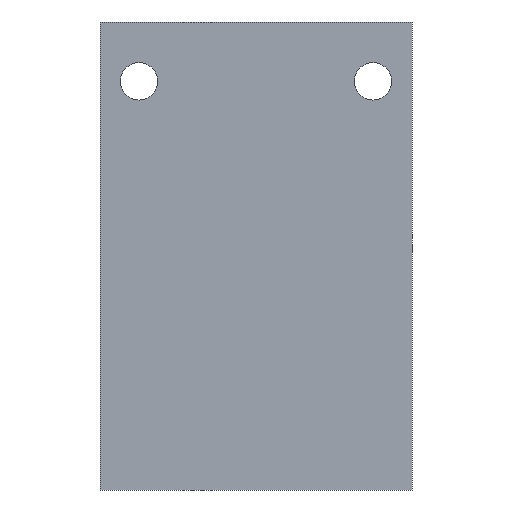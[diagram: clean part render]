
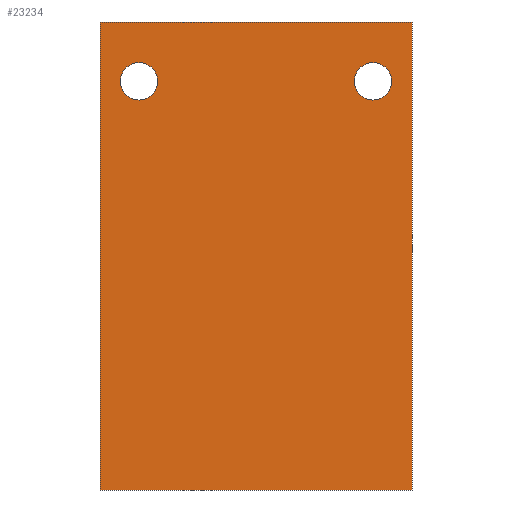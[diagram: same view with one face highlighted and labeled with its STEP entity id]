
A CAD part, front view. The second image highlights one B-rep face of the part: STEP entity #23234.
In plain terms, the highlighted planar face has unit normal (0, -1, 0).
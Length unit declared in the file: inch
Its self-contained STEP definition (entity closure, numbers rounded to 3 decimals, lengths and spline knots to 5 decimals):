
#471 = CARTESIAN_POINT ( 'NONE',  ( 0.375, -0.03125, 0.56 ) ) ;
#3768 = CIRCLE ( 'NONE', #24763, 0.06 ) ;
#4993 = FACE_OUTER_BOUND ( 'NONE', #55538, .T. ) ;
#5195 = CIRCLE ( 'NONE', #61440, 0.06 ) ;
#5812 = CARTESIAN_POINT ( 'NONE',  ( -0.375, -0.03125, 0.5 ) ) ;
#5893 = DIRECTION ( 'NONE',  ( 0., 0., 1. ) ) ;
#6163 = CARTESIAN_POINT ( 'NONE',  ( -0.375, -0.03125, 0.56 ) ) ;
#9868 = CARTESIAN_POINT ( 'NONE',  ( 0.5, -0.03125, 0.75 ) ) ;
#11279 = LINE ( 'NONE', #52866, #52467 ) ;
#11567 = DIRECTION ( 'NONE',  ( 0., 0., 1. ) ) ;
#12173 = VERTEX_POINT ( 'NONE', #9868 ) ;
#13212 = CARTESIAN_POINT ( 'NONE',  ( 0.375, -0.03125, 0.62 ) ) ;
#13873 = AXIS2_PLACEMENT_3D ( 'NONE', #471, #38088, #5893 ) ;
#14081 = ORIENTED_EDGE ( 'NONE', *, *, #65235, .T. ) ;
#16744 = EDGE_CURVE ( 'NONE', #51047, #39979, #3768, .T. ) ;
#17879 = CARTESIAN_POINT ( 'NONE',  ( -0.5, -0.03125, -0.75 ) ) ;
#18766 = CARTESIAN_POINT ( 'NONE',  ( 0., -0.03125, 0. ) ) ;
#18881 = CARTESIAN_POINT ( 'NONE',  ( -0.5, -0.03125, 0. ) ) ;
#19242 = FACE_BOUND ( 'NONE', #41740, .T. ) ;
#19586 = EDGE_CURVE ( 'NONE', #51341, #24756, #27676, .T. ) ;
#20316 = EDGE_CURVE ( 'NONE', #35443, #40907, #34217, .T. ) ;
#20399 = EDGE_CURVE ( 'NONE', #39979, #51047, #46004, .T. ) ;
#20922 = DIRECTION ( 'NONE',  ( 0., 1., 0. ) ) ;
#22057 = ORIENTED_EDGE ( 'NONE', *, *, #20316, .T. ) ;
#23234 = ADVANCED_FACE ( 'NONE', ( #19242, #33562, #4993 ), #56173, .T. ) ;
#23436 = CARTESIAN_POINT ( 'NONE',  ( 0.375, -0.03125, 0.5 ) ) ;
#24190 = DIRECTION ( 'NONE',  ( 0., 0., -1. ) ) ;
#24191 = ORIENTED_EDGE ( 'NONE', *, *, #60579, .T. ) ;
#24514 = CARTESIAN_POINT ( 'NONE',  ( 0., -0.03125, 0.75 ) ) ;
#24756 = VERTEX_POINT ( 'NONE', #17879 ) ;
#24763 = AXIS2_PLACEMENT_3D ( 'NONE', #31415, #68947, #36829 ) ;
#26022 = AXIS2_PLACEMENT_3D ( 'NONE', #53097, #20922, #58513 ) ;
#26928 = CARTESIAN_POINT ( 'NONE',  ( 0.5, -0.03125, -0.75 ) ) ;
#27138 = DIRECTION ( 'NONE',  ( 1., 0., 0. ) ) ;
#27676 = LINE ( 'NONE', #18881, #56286 ) ;
#29715 = VERTEX_POINT ( 'NONE', #26928 ) ;
#30153 = DIRECTION ( 'NONE',  ( -1., 0., 0. ) ) ;
#30868 = LINE ( 'NONE', #59557, #45246 ) ;
#31415 = CARTESIAN_POINT ( 'NONE',  ( 0.375, -0.03125, 0.56 ) ) ;
#33253 = AXIS2_PLACEMENT_3D ( 'NONE', #18766, #56418, #24190 ) ;
#33562 = FACE_BOUND ( 'NONE', #46425, .T. ) ;
#34217 = CIRCLE ( 'NONE', #26022, 0.06 ) ;
#35293 = LINE ( 'NONE', #24514, #49596 ) ;
#35443 = VERTEX_POINT ( 'NONE', #5812 ) ;
#36829 = DIRECTION ( 'NONE',  ( 0., 0., 1. ) ) ;
#38088 = DIRECTION ( 'NONE',  ( 0., 1., 0. ) ) ;
#39979 = VERTEX_POINT ( 'NONE', #13212 ) ;
#40907 = VERTEX_POINT ( 'NONE', #52994 ) ;
#41355 = EDGE_CURVE ( 'NONE', #12173, #51341, #35293, .T. ) ;
#41740 = EDGE_LOOP ( 'NONE', ( #63292, #61299 ) ) ;
#43796 = DIRECTION ( 'NONE',  ( 0., 1., 0. ) ) ;
#45246 = VECTOR ( 'NONE', #27138, 39.37008 ) ;
#46004 = CIRCLE ( 'NONE', #13873, 0.06 ) ;
#46425 = EDGE_LOOP ( 'NONE', ( #14081, #22057 ) ) ;
#47856 = CARTESIAN_POINT ( 'NONE',  ( -0.5, -0.03125, 0.75 ) ) ;
#49596 = VECTOR ( 'NONE', #30153, 39.37008 ) ;
#50532 = EDGE_CURVE ( 'NONE', #29715, #12173, #11279, .T. ) ;
#51047 = VERTEX_POINT ( 'NONE', #23436 ) ;
#51341 = VERTEX_POINT ( 'NONE', #47856 ) ;
#52467 = VECTOR ( 'NONE', #58286, 39.37008 ) ;
#52866 = CARTESIAN_POINT ( 'NONE',  ( 0.5, -0.03125, 0. ) ) ;
#52994 = CARTESIAN_POINT ( 'NONE',  ( -0.375, -0.03125, 0.62 ) ) ;
#53097 = CARTESIAN_POINT ( 'NONE',  ( -0.375, -0.03125, 0.56 ) ) ;
#55538 = EDGE_LOOP ( 'NONE', ( #69027, #57779, #58256, #24191 ) ) ;
#56173 = PLANE ( 'NONE',  #33253 ) ;
#56286 = VECTOR ( 'NONE', #56512, 39.37008 ) ;
#56418 = DIRECTION ( 'NONE',  ( 0., -1., 0. ) ) ;
#56512 = DIRECTION ( 'NONE',  ( 0., 0., -1. ) ) ;
#57779 = ORIENTED_EDGE ( 'NONE', *, *, #41355, .T. ) ;
#58256 = ORIENTED_EDGE ( 'NONE', *, *, #19586, .T. ) ;
#58286 = DIRECTION ( 'NONE',  ( 0., 0., 1. ) ) ;
#58513 = DIRECTION ( 'NONE',  ( 0., 0., 1. ) ) ;
#59557 = CARTESIAN_POINT ( 'NONE',  ( 0., -0.03125, -0.75 ) ) ;
#60579 = EDGE_CURVE ( 'NONE', #24756, #29715, #30868, .T. ) ;
#61299 = ORIENTED_EDGE ( 'NONE', *, *, #16744, .T. ) ;
#61440 = AXIS2_PLACEMENT_3D ( 'NONE', #6163, #43796, #11567 ) ;
#63292 = ORIENTED_EDGE ( 'NONE', *, *, #20399, .T. ) ;
#65235 = EDGE_CURVE ( 'NONE', #40907, #35443, #5195, .T. ) ;
#68947 = DIRECTION ( 'NONE',  ( 0., 1., 0. ) ) ;
#69027 = ORIENTED_EDGE ( 'NONE', *, *, #50532, .T. ) ;
